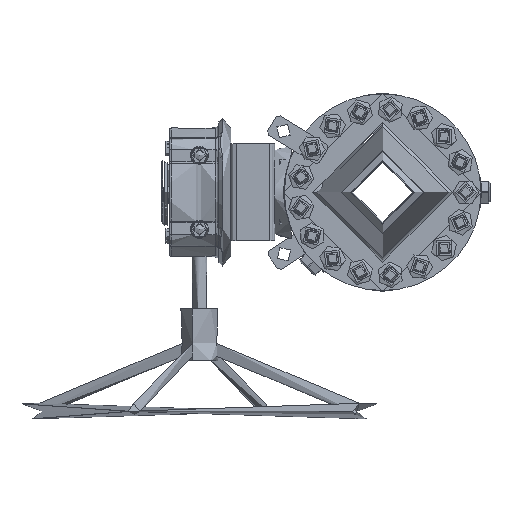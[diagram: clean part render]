
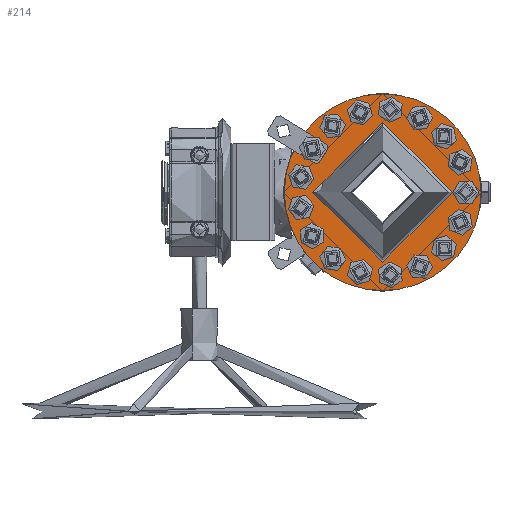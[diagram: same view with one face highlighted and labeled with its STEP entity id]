
A CAD part, left-side view. The second image highlights one B-rep face of the part: STEP entity #214.
In plain terms, the highlighted planar face has unit normal (-1, 0, 0).
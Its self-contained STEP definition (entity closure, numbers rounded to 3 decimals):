
#214=ADVANCED_FACE('',(#21172,#21174,#21176,#21178,#21180,#21182,#21184,#21186,#21188,
#21190,#21192,#21194,#21196,#21198,#21200,#21202,#21204,#21206,#21208),#21210,.T.);
#21172=FACE_BOUND('',#21173,.T.);
#21173=EDGE_LOOP('',(#39173));
#21174=FACE_BOUND('',#21175,.T.);
#21175=EDGE_LOOP('',(#39174));
#21176=FACE_BOUND('',#21177,.T.);
#21177=EDGE_LOOP('',(#39175));
#21178=FACE_BOUND('',#21179,.T.);
#21179=EDGE_LOOP('',(#39176));
#21180=FACE_BOUND('',#21181,.T.);
#21181=EDGE_LOOP('',(#39177));
#21182=FACE_BOUND('',#21183,.T.);
#21183=EDGE_LOOP('',(#39178));
#21184=FACE_BOUND('',#21185,.T.);
#21185=EDGE_LOOP('',(#39179));
#21186=FACE_BOUND('',#21187,.T.);
#21187=EDGE_LOOP('',(#39180));
#21188=FACE_BOUND('',#21189,.T.);
#21189=EDGE_LOOP('',(#39181));
#21190=FACE_BOUND('',#21191,.T.);
#21191=EDGE_LOOP('',(#39182));
#21192=FACE_BOUND('',#21193,.T.);
#21193=EDGE_LOOP('',(#39183));
#21194=FACE_BOUND('',#21195,.T.);
#21195=EDGE_LOOP('',(#39184));
#21196=FACE_BOUND('',#21197,.T.);
#21197=EDGE_LOOP('',(#39185));
#21198=FACE_BOUND('',#21199,.T.);
#21199=EDGE_LOOP('',(#39186));
#21200=FACE_BOUND('',#21201,.T.);
#21201=EDGE_LOOP('',(#39187));
#21202=FACE_BOUND('',#21203,.T.);
#21203=EDGE_LOOP('',(#39188));
#21204=FACE_BOUND('',#21205,.T.);
#21205=EDGE_LOOP('',(#39189));
#21206=FACE_BOUND('',#21207,.T.);
#21207=EDGE_LOOP('',(#39190));
#21208=FACE_OUTER_BOUND('',#21209,.T.);
#21209=EDGE_LOOP('',(#39191));
#21210=PLANE('',#21211);
#21211=AXIS2_PLACEMENT_3D('',#21212,#21213,#21214);
#21212=CARTESIAN_POINT('',(-112.,0.,0.));
#21213=DIRECTION('',(-1.,-0.,-0.));
#21214=DIRECTION('',(0.,0.,-1.));
#39173=ORIENTED_EDGE('',*,*,#74141,.T.);
#39174=ORIENTED_EDGE('',*,*,#74142,.T.);
#39175=ORIENTED_EDGE('',*,*,#74143,.T.);
#39176=ORIENTED_EDGE('',*,*,#74144,.F.);
#39177=ORIENTED_EDGE('',*,*,#74145,.T.);
#39178=ORIENTED_EDGE('',*,*,#74146,.T.);
#39179=ORIENTED_EDGE('',*,*,#74147,.F.);
#39180=ORIENTED_EDGE('',*,*,#74148,.T.);
#39181=ORIENTED_EDGE('',*,*,#74149,.T.);
#39182=ORIENTED_EDGE('',*,*,#74150,.T.);
#39183=ORIENTED_EDGE('',*,*,#74151,.T.);
#39184=ORIENTED_EDGE('',*,*,#74152,.T.);
#39185=ORIENTED_EDGE('',*,*,#74153,.T.);
#39186=ORIENTED_EDGE('',*,*,#74154,.T.);
#39187=ORIENTED_EDGE('',*,*,#74155,.T.);
#39188=ORIENTED_EDGE('',*,*,#74156,.T.);
#39189=ORIENTED_EDGE('',*,*,#74157,.T.);
#39190=ORIENTED_EDGE('',*,*,#74158,.T.);
#39191=ORIENTED_EDGE('',*,*,#74109,.F.);
#74109=EDGE_CURVE('',#77621,#77621,#77623,.T.);
#74141=EDGE_CURVE('',#77685,#77685,#77686,.F.);
#74142=EDGE_CURVE('',#77687,#77687,#77688,.F.);
#74143=EDGE_CURVE('',#77689,#77689,#77690,.F.);
#74144=EDGE_CURVE('',#77691,#77691,#77692,.T.);
#74145=EDGE_CURVE('',#77693,#77693,#77694,.F.);
#74146=EDGE_CURVE('',#77695,#77695,#77696,.F.);
#74147=EDGE_CURVE('',#77697,#77697,#77698,.T.);
#74148=EDGE_CURVE('',#77699,#77699,#77700,.F.);
#74149=EDGE_CURVE('',#77701,#77701,#77702,.T.);
#74150=EDGE_CURVE('',#77703,#77703,#77704,.F.);
#74151=EDGE_CURVE('',#77705,#77705,#77706,.F.);
#74152=EDGE_CURVE('',#77707,#77707,#77708,.F.);
#74153=EDGE_CURVE('',#77709,#77709,#77710,.F.);
#74154=EDGE_CURVE('',#77711,#77711,#77712,.F.);
#74155=EDGE_CURVE('',#77713,#77713,#77714,.F.);
#74156=EDGE_CURVE('',#77715,#77715,#77716,.F.);
#74157=EDGE_CURVE('',#77717,#77717,#77718,.F.);
#74158=EDGE_CURVE('',#77719,#77719,#77720,.F.);
#77621=VERTEX_POINT('',#83525);
#77623=CIRCLE('',#83529,131.5);
#77685=VERTEX_POINT('',#83674);
#77686=CIRCLE('',#83675,14.25);
#77687=VERTEX_POINT('',#83679);
#77688=CIRCLE('',#83680,14.25);
#77689=VERTEX_POINT('',#83684);
#77690=CIRCLE('',#83685,14.25);
#77691=VERTEX_POINT('',#83689);
#77692=CIRCLE('',#83690,14.25);
#77693=VERTEX_POINT('',#83694);
#77694=CIRCLE('',#83695,14.25);
#77695=VERTEX_POINT('',#83699);
#77696=CIRCLE('',#83700,14.25);
#77697=VERTEX_POINT('',#83704);
#77698=CIRCLE('',#83705,14.25);
#77699=VERTEX_POINT('',#83709);
#77700=CIRCLE('',#83710,14.25);
#77701=VERTEX_POINT('',#83714);
#77702=CIRCLE('',#83715,93.389);
#77703=VERTEX_POINT('',#83719);
#77704=CIRCLE('',#83720,10.);
#77705=VERTEX_POINT('',#83724);
#77706=CIRCLE('',#83725,14.25);
#77707=VERTEX_POINT('',#83729);
#77708=CIRCLE('',#83730,14.25);
#77709=VERTEX_POINT('',#83734);
#77710=CIRCLE('',#83735,14.25);
#77711=VERTEX_POINT('',#83739);
#77712=CIRCLE('',#83740,14.25);
#77713=VERTEX_POINT('',#83744);
#77714=CIRCLE('',#83745,14.25);
#77715=VERTEX_POINT('',#83749);
#77716=CIRCLE('',#83750,14.25);
#77717=VERTEX_POINT('',#83754);
#77718=CIRCLE('',#83755,14.25);
#77719=VERTEX_POINT('',#83759);
#77720=CIRCLE('',#83760,14.25);
#83525=CARTESIAN_POINT('',(-112.,0.,-131.5));
#83529=AXIS2_PLACEMENT_3D('',#83530,#83531,#83532);
#83530=CARTESIAN_POINT('',(-112.,0.,0.));
#83531=DIRECTION('',(1.,0.,0.));
#83532=DIRECTION('',(0.,0.,-1.));
#83674=CARTESIAN_POINT('',(-112.,34.276,120.469));
#83675=AXIS2_PLACEMENT_3D('',#83676,#83677,#83678);
#83676=CARTESIAN_POINT('',(-112.,30.377,106.763));
#83677=DIRECTION('',(-1.,-0.,-0.));
#83678=DIRECTION('',(-0.,0.274,0.962));
#83679=CARTESIAN_POINT('',(-112.,-55.829,112.119));
#83680=AXIS2_PLACEMENT_3D('',#83681,#83682,#83683);
#83681=CARTESIAN_POINT('',(-112.,-49.477,99.363));
#83682=DIRECTION('',(-1.,-0.,-0.));
#83683=DIRECTION('',(0.,-0.446,0.895));
#83684=CARTESIAN_POINT('',(-112.,-116.792,45.246));
#83685=AXIS2_PLACEMENT_3D('',#83686,#83687,#83688);
#83686=CARTESIAN_POINT('',(-112.,-103.504,40.098));
#83687=DIRECTION('',(-1.,-0.,-0.));
#83688=DIRECTION('',(0.,-0.932,0.361));
#83689=CARTESIAN_POINT('',(-112.,-116.792,-45.246));
#83690=AXIS2_PLACEMENT_3D('',#83691,#83692,#83693);
#83691=CARTESIAN_POINT('',(-112.,-103.504,-40.098));
#83692=DIRECTION('',(-1.,-0.,-0.));
#83693=DIRECTION('',(0.,-0.932,-0.361));
#83694=CARTESIAN_POINT('',(-112.,-55.829,-112.119));
#83695=AXIS2_PLACEMENT_3D('',#83696,#83697,#83698);
#83696=CARTESIAN_POINT('',(-112.,-49.477,-99.363));
#83697=DIRECTION('',(-1.,-0.,-0.));
#83698=DIRECTION('',(0.,-0.446,-0.895));
#83699=CARTESIAN_POINT('',(-112.,34.276,-120.469));
#83700=AXIS2_PLACEMENT_3D('',#83701,#83702,#83703);
#83701=CARTESIAN_POINT('',(-112.,30.377,-106.763));
#83702=DIRECTION('',(-1.,-0.,-0.));
#83703=DIRECTION('',(0.,0.274,-0.962));
#83704=CARTESIAN_POINT('',(-112.,106.49,-65.936));
#83705=AXIS2_PLACEMENT_3D('',#83706,#83707,#83708);
#83706=CARTESIAN_POINT('',(-112.,94.374,-58.434));
#83707=DIRECTION('',(-1.,-0.,-0.));
#83708=DIRECTION('',(0.,0.85,-0.526));
#83709=CARTESIAN_POINT('',(-112.,123.117,23.015));
#83710=AXIS2_PLACEMENT_3D('',#83711,#83712,#83713);
#83711=CARTESIAN_POINT('',(-112.,109.11,20.396));
#83712=DIRECTION('',(-1.,-0.,-0.));
#83713=DIRECTION('',(-0.,0.983,0.184));
#83714=CARTESIAN_POINT('',(-112.,0.,-93.389));
#83715=AXIS2_PLACEMENT_3D('',#83716,#83717,#83718);
#83716=CARTESIAN_POINT('',(-112.,0.,0.));
#83717=DIRECTION('',(1.,0.,0.));
#83718=DIRECTION('',(0.,0.,-1.));
#83719=CARTESIAN_POINT('',(-112.,99.898,50.098));
#83720=AXIS2_PLACEMENT_3D('',#83721,#83722,#83723);
#83721=CARTESIAN_POINT('',(-112.,94.374,58.434));
#83722=DIRECTION('',(-1.,-0.,-0.));
#83723=DIRECTION('',(0.,0.552,-0.834));
#83724=CARTESIAN_POINT('',(-112.,123.117,-23.015));
#83725=AXIS2_PLACEMENT_3D('',#83726,#83727,#83728);
#83726=CARTESIAN_POINT('',(-112.,109.11,-20.396));
#83727=DIRECTION('',(-1.,-0.,-0.));
#83728=DIRECTION('',(0.,0.983,-0.184));
#83729=CARTESIAN_POINT('',(-112.,75.48,-99.952));
#83730=AXIS2_PLACEMENT_3D('',#83731,#83732,#83733);
#83731=CARTESIAN_POINT('',(-112.,66.892,-88.58));
#83732=DIRECTION('',(-1.,-0.,-0.));
#83733=DIRECTION('',(0.,0.603,-0.798));
#83734=CARTESIAN_POINT('',(-112.,-11.557,-124.716));
#83735=AXIS2_PLACEMENT_3D('',#83736,#83737,#83738);
#83736=CARTESIAN_POINT('',(-112.,-10.242,-110.526));
#83737=DIRECTION('',(-1.,-0.,-0.));
#83738=DIRECTION('',(0.,-0.092,-0.996));
#83739=CARTESIAN_POINT('',(-112.,-92.561,-84.38));
#83740=AXIS2_PLACEMENT_3D('',#83741,#83742,#83743);
#83741=CARTESIAN_POINT('',(-112.,-82.03,-74.78));
#83742=DIRECTION('',(-1.,-0.,-0.));
#83743=DIRECTION('',(0.,-0.739,-0.674));
#83744=CARTESIAN_POINT('',(-112.,-125.25,0.));
#83745=AXIS2_PLACEMENT_3D('',#83746,#83747,#83748);
#83746=CARTESIAN_POINT('',(-112.,-111.,0.));
#83747=DIRECTION('',(-1.,-0.,-0.));
#83748=DIRECTION('',(0.,-1.,0.));
#83749=CARTESIAN_POINT('',(-112.,-92.561,84.38));
#83750=AXIS2_PLACEMENT_3D('',#83751,#83752,#83753);
#83751=CARTESIAN_POINT('',(-112.,-82.03,74.78));
#83752=DIRECTION('',(-1.,-0.,-0.));
#83753=DIRECTION('',(0.,-0.739,0.674));
#83754=CARTESIAN_POINT('',(-112.,-11.557,124.716));
#83755=AXIS2_PLACEMENT_3D('',#83756,#83757,#83758);
#83756=CARTESIAN_POINT('',(-112.,-10.242,110.526));
#83757=DIRECTION('',(-1.,-0.,-0.));
#83758=DIRECTION('',(0.,-0.092,0.996));
#83759=CARTESIAN_POINT('',(-112.,75.48,99.952));
#83760=AXIS2_PLACEMENT_3D('',#83761,#83762,#83763);
#83761=CARTESIAN_POINT('',(-112.,66.892,88.58));
#83762=DIRECTION('',(-1.,-0.,-0.));
#83763=DIRECTION('',(-0.,0.603,0.798));
